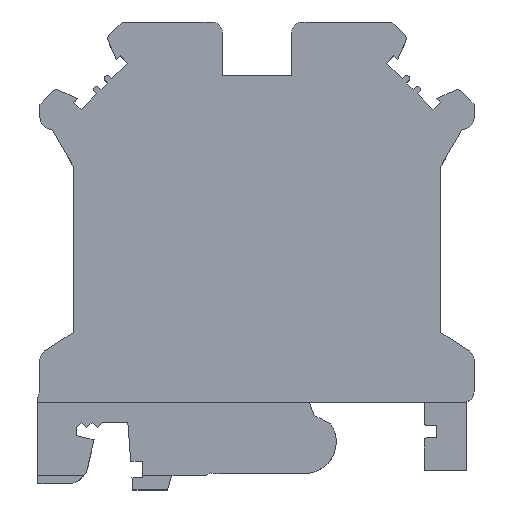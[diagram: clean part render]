
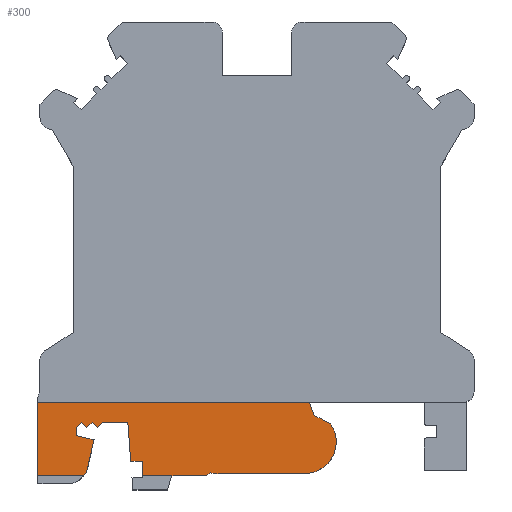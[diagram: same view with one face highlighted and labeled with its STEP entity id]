
A CAD part, top view. The second image highlights one B-rep face of the part: STEP entity #300.
In plain terms, the highlighted planar face has unit normal (0, 0, 1).
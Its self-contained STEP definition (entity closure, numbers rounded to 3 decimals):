
#137=CIRCLE('',#2760,3.1);
#139=CIRCLE('',#2764,1.);
#141=CIRCLE('',#2787,2.);
#300=ADVANCED_FACE('',(#537),#408,.F.);
#408=PLANE('',#2907);
#537=FACE_OUTER_BOUND('',#666,.T.);
#666=EDGE_LOOP('',(#1363,#1364,#1365,#1366,#1367,#1368,#1369,#1370,#1371,
#1372,#1373,#1374,#1375,#1376,#1377,#1378,#1379,#1380,#1381,#1382,#1383,
#1384,#1385));
#1363=ORIENTED_EDGE('',*,*,#1749,.F.);
#1364=ORIENTED_EDGE('',*,*,#2054,.T.);
#1365=ORIENTED_EDGE('',*,*,#1862,.F.);
#1366=ORIENTED_EDGE('',*,*,#2066,.F.);
#1367=ORIENTED_EDGE('',*,*,#1838,.F.);
#1368=ORIENTED_EDGE('',*,*,#1835,.F.);
#1369=ORIENTED_EDGE('',*,*,#1832,.F.);
#1370=ORIENTED_EDGE('',*,*,#1829,.F.);
#1371=ORIENTED_EDGE('',*,*,#1826,.F.);
#1372=ORIENTED_EDGE('',*,*,#1823,.F.);
#1373=ORIENTED_EDGE('',*,*,#1820,.F.);
#1374=ORIENTED_EDGE('',*,*,#1817,.F.);
#1375=ORIENTED_EDGE('',*,*,#1814,.F.);
#1376=ORIENTED_EDGE('',*,*,#1811,.F.);
#1377=ORIENTED_EDGE('',*,*,#1808,.F.);
#1378=ORIENTED_EDGE('',*,*,#1805,.F.);
#1379=ORIENTED_EDGE('',*,*,#1794,.F.);
#1380=ORIENTED_EDGE('',*,*,#1694,.F.);
#1381=ORIENTED_EDGE('',*,*,#1764,.F.);
#1382=ORIENTED_EDGE('',*,*,#1761,.F.);
#1383=ORIENTED_EDGE('',*,*,#1758,.F.);
#1384=ORIENTED_EDGE('',*,*,#1755,.F.);
#1385=ORIENTED_EDGE('',*,*,#1752,.F.);
#1440=VERTEX_POINT('',#3611);
#1441=VERTEX_POINT('',#3613);
#1487=VERTEX_POINT('',#3727);
#1488=VERTEX_POINT('',#3729);
#1490=VERTEX_POINT('',#3735);
#1492=VERTEX_POINT('',#3741);
#1494=VERTEX_POINT('',#3747);
#1496=VERTEX_POINT('',#3753);
#1518=VERTEX_POINT('',#3817);
#1524=VERTEX_POINT('',#3835);
#1526=VERTEX_POINT('',#3841);
#1528=VERTEX_POINT('',#3847);
#1530=VERTEX_POINT('',#3853);
#1532=VERTEX_POINT('',#3859);
#1534=VERTEX_POINT('',#3865);
#1536=VERTEX_POINT('',#3871);
#1538=VERTEX_POINT('',#3877);
#1540=VERTEX_POINT('',#3883);
#1542=VERTEX_POINT('',#3889);
#1544=VERTEX_POINT('',#3895);
#1546=VERTEX_POINT('',#3901);
#1566=VERTEX_POINT('',#3949);
#1567=VERTEX_POINT('',#3950);
#1694=EDGE_CURVE('',#1440,#1441,#2075,.T.);
#1749=EDGE_CURVE('',#1487,#1488,#2126,.T.);
#1752=EDGE_CURVE('',#1488,#1490,#2129,.T.);
#1755=EDGE_CURVE('',#1490,#1492,#137,.T.);
#1758=EDGE_CURVE('',#1492,#1494,#2133,.T.);
#1761=EDGE_CURVE('',#1494,#1496,#139,.T.);
#1764=EDGE_CURVE('',#1496,#1440,#2137,.T.);
#1794=EDGE_CURVE('',#1441,#1518,#2167,.T.);
#1805=EDGE_CURVE('',#1518,#1524,#2178,.T.);
#1808=EDGE_CURVE('',#1524,#1526,#2181,.T.);
#1811=EDGE_CURVE('',#1526,#1528,#2184,.T.);
#1814=EDGE_CURVE('',#1528,#1530,#2187,.T.);
#1817=EDGE_CURVE('',#1530,#1532,#2190,.T.);
#1820=EDGE_CURVE('',#1532,#1534,#2193,.T.);
#1823=EDGE_CURVE('',#1534,#1536,#2196,.T.);
#1826=EDGE_CURVE('',#1536,#1538,#2199,.T.);
#1829=EDGE_CURVE('',#1538,#1540,#2202,.T.);
#1832=EDGE_CURVE('',#1540,#1542,#2205,.T.);
#1835=EDGE_CURVE('',#1542,#1544,#2208,.T.);
#1838=EDGE_CURVE('',#1544,#1546,#141,.T.);
#1862=EDGE_CURVE('',#1566,#1567,#2227,.T.);
#2054=EDGE_CURVE('',#1487,#1567,#2387,.T.);
#2066=EDGE_CURVE('',#1546,#1566,#2399,.T.);
#2075=LINE('',#3612,#2408);
#2126=LINE('',#3728,#2459);
#2129=LINE('',#3734,#2462);
#2133=LINE('',#3746,#2466);
#2137=LINE('',#3758,#2470);
#2167=LINE('',#3816,#2500);
#2178=LINE('',#3834,#2511);
#2181=LINE('',#3840,#2514);
#2184=LINE('',#3846,#2517);
#2187=LINE('',#3852,#2520);
#2190=LINE('',#3858,#2523);
#2193=LINE('',#3864,#2526);
#2196=LINE('',#3870,#2529);
#2199=LINE('',#3876,#2532);
#2202=LINE('',#3882,#2535);
#2205=LINE('',#3888,#2538);
#2208=LINE('',#3894,#2541);
#2227=LINE('',#3948,#2560);
#2387=LINE('',#4326,#2720);
#2399=LINE('',#4353,#2732);
#2408=VECTOR('',#2921,1.);
#2459=VECTOR('',#3008,1.);
#2462=VECTOR('',#3013,1.);
#2466=VECTOR('',#3025,1.);
#2470=VECTOR('',#3037,1.);
#2500=VECTOR('',#3083,1.);
#2511=VECTOR('',#3096,1.);
#2514=VECTOR('',#3101,1.);
#2517=VECTOR('',#3106,1.);
#2520=VECTOR('',#3111,1.);
#2523=VECTOR('',#3116,1.);
#2526=VECTOR('',#3121,1.);
#2529=VECTOR('',#3126,1.);
#2532=VECTOR('',#3131,1.);
#2535=VECTOR('',#3136,1.);
#2538=VECTOR('',#3141,1.);
#2541=VECTOR('',#3146,1.);
#2560=VECTOR('',#3191,1.);
#2720=VECTOR('',#3535,1.);
#2732=VECTOR('',#3577,1.);
#2760=AXIS2_PLACEMENT_3D('',#3740,#3018,#3019);
#2764=AXIS2_PLACEMENT_3D('',#3752,#3030,#3031);
#2787=AXIS2_PLACEMENT_3D('',#3900,#3151,#3152);
#2907=AXIS2_PLACEMENT_3D('',#4355,#3580,#3581);
#2921=DIRECTION('',(-1.,0.,0.));
#3008=DIRECTION('',(0.309,-0.951,0.));
#3013=DIRECTION('',(0.883,-0.47,0.));
#3018=DIRECTION('',(0.,0.,-1.));
#3019=DIRECTION('',(-1.,0.,0.));
#3025=DIRECTION('',(-1.,0.,0.));
#3030=DIRECTION('',(0.,0.,-1.));
#3031=DIRECTION('',(-1.,0.,0.));
#3037=DIRECTION('',(-0.784,-0.621,0.));
#3083=DIRECTION('',(0.,1.,0.));
#3096=DIRECTION('',(-1.,0.,0.));
#3101=DIRECTION('',(-0.076,0.997,0.));
#3106=DIRECTION('',(-1.,0.,0.));
#3111=DIRECTION('',(-0.707,-0.707,0.));
#3116=DIRECTION('',(-0.707,0.707,0.));
#3121=DIRECTION('',(-0.707,-0.707,0.));
#3126=DIRECTION('',(-0.707,0.707,0.));
#3131=DIRECTION('',(-0.707,-0.707,0.));
#3136=DIRECTION('',(0.,-1.,0.));
#3141=DIRECTION('',(0.973,-0.229,0.));
#3146=DIRECTION('',(-0.227,-0.974,0.));
#3151=DIRECTION('',(0.,0.,-1.));
#3152=DIRECTION('',(-1.,0.,0.));
#3191=DIRECTION('',(0.,1.,0.));
#3535=DIRECTION('',(-1.,0.,0.));
#3577=DIRECTION('',(-1.,0.,0.));
#3580=DIRECTION('',(0.,0.,-1.));
#3581=DIRECTION('',(-1.,0.,0.));
#3611=CARTESIAN_POINT('',(101.251,-0.596,-1.1));
#3612=CARTESIAN_POINT('',(153.138,-0.596,-1.1));
#3613=CARTESIAN_POINT('',(95.001,-0.596,-1.1));
#3727=CARTESIAN_POINT('',(111.341,6.604,-1.1));
#3728=CARTESIAN_POINT('',(111.341,6.604,-1.1));
#3729=CARTESIAN_POINT('',(111.751,5.338,-1.1));
#3734=CARTESIAN_POINT('',(111.751,5.338,-1.1));
#3735=CARTESIAN_POINT('',(113.409,4.456,-1.1));
#3740=CARTESIAN_POINT('',(110.851,2.704,-1.1));
#3741=CARTESIAN_POINT('',(110.851,-0.396,-1.1));
#3746=CARTESIAN_POINT('',(110.851,-0.396,-1.1));
#3747=CARTESIAN_POINT('',(102.086,-0.396,-1.1));
#3752=CARTESIAN_POINT('',(102.086,0.604,-1.1));
#3753=CARTESIAN_POINT('',(101.638,-0.29,-1.1));
#3758=CARTESIAN_POINT('',(101.638,-0.29,-1.1));
#3816=CARTESIAN_POINT('',(95.001,-0.796,-1.1));
#3817=CARTESIAN_POINT('',(95.001,0.804,-1.1));
#3834=CARTESIAN_POINT('',(95.001,0.804,-1.1));
#3835=CARTESIAN_POINT('',(93.839,0.804,-1.1));
#3840=CARTESIAN_POINT('',(93.839,0.804,-1.1));
#3841=CARTESIAN_POINT('',(93.551,4.604,-1.1));
#3846=CARTESIAN_POINT('',(93.551,4.604,-1.1));
#3847=CARTESIAN_POINT('',(91.051,4.604,-1.1));
#3852=CARTESIAN_POINT('',(91.051,4.604,-1.1));
#3853=CARTESIAN_POINT('',(90.551,4.104,-1.1));
#3858=CARTESIAN_POINT('',(90.551,4.104,-1.1));
#3859=CARTESIAN_POINT('',(90.051,4.604,-1.1));
#3864=CARTESIAN_POINT('',(90.051,4.604,-1.1));
#3865=CARTESIAN_POINT('',(89.551,4.104,-1.1));
#3870=CARTESIAN_POINT('',(89.551,4.104,-1.1));
#3871=CARTESIAN_POINT('',(89.051,4.604,-1.1));
#3876=CARTESIAN_POINT('',(89.051,4.604,-1.1));
#3877=CARTESIAN_POINT('',(88.551,4.104,-1.1));
#3882=CARTESIAN_POINT('',(88.551,4.104,-1.1));
#3883=CARTESIAN_POINT('',(88.551,3.304,-1.1));
#3888=CARTESIAN_POINT('',(88.551,3.304,-1.1));
#3889=CARTESIAN_POINT('',(90.251,2.904,-1.1));
#3894=CARTESIAN_POINT('',(90.251,2.904,-1.1));
#3895=CARTESIAN_POINT('',(89.611,0.151,-1.1));
#3900=CARTESIAN_POINT('',(87.663,0.604,-1.1));
#3901=CARTESIAN_POINT('',(89.263,-0.596,-1.1));
#3948=CARTESIAN_POINT('',(84.751,-1.396,-1.1));
#3949=CARTESIAN_POINT('',(84.751,-0.596,-1.1));
#3950=CARTESIAN_POINT('',(84.751,6.604,-1.1));
#4326=CARTESIAN_POINT('',(153.138,6.604,-1.1));
#4353=CARTESIAN_POINT('',(153.138,-0.596,-1.1));
#4355=CARTESIAN_POINT('',(153.138,6.604,-1.1));
